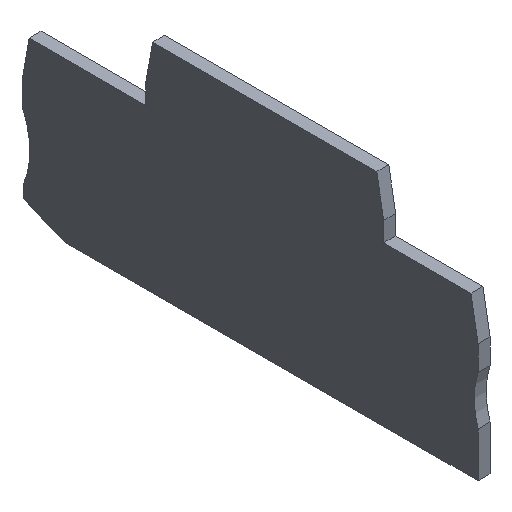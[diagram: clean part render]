
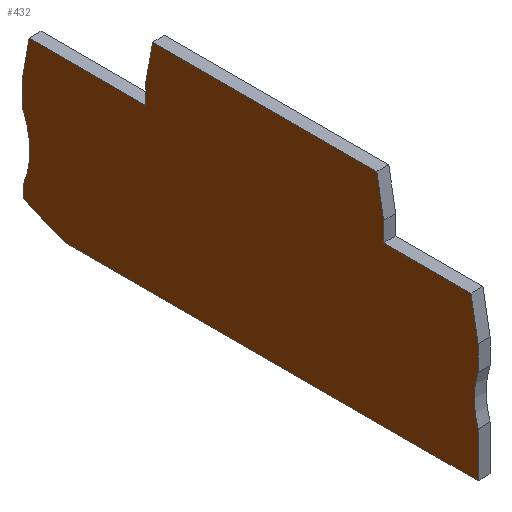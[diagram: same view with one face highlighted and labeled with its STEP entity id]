
A CAD part, isometric view. The second image highlights one B-rep face of the part: STEP entity #432.
In plain terms, the highlighted planar face has unit normal (-1, 0, 0).
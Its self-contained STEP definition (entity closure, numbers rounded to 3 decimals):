
#42=CARTESIAN_POINT('',(0.,59.804,39.898));
#43=VERTEX_POINT('',#42);
#50=CARTESIAN_POINT('',(0.,18.611,39.898));
#51=VERTEX_POINT('',#50);
#52=CARTESIAN_POINT('',(0.,59.804,39.898));
#53=DIRECTION('',(-0.,-1.,-0.));
#54=VECTOR('',#53,41.193);
#55=LINE('',#52,#54);
#56=EDGE_CURVE('',#43,#51,#55,.T.);
#279=CARTESIAN_POINT('',(0.,17.352,32.759));
#280=VERTEX_POINT('',#279);
#281=CARTESIAN_POINT('',(0.,17.352,29.198));
#282=VERTEX_POINT('',#281);
#283=CARTESIAN_POINT('',(0.,17.352,32.759));
#284=DIRECTION('',(-0.,-0.,-1.));
#285=VECTOR('',#284,3.561);
#286=LINE('',#283,#285);
#287=EDGE_CURVE('',#280,#282,#286,.T.);
#305=CARTESIAN_POINT('',(0.,16.153,4.638));
#306=DIRECTION('',(1.,0.,0.));
#307=DIRECTION('',(0.,1.,0.));
#308=AXIS2_PLACEMENT_3D('',#305,#306,#307);
#309=PLANE('',#308);
#310=CARTESIAN_POINT('',(0.,0.002,17.248));
#311=VERTEX_POINT('',#310);
#312=CARTESIAN_POINT('',(0.,0.002,8.248));
#313=VERTEX_POINT('',#312);
#314=CARTESIAN_POINT('',(0.,-14.307,12.748));
#315=DIRECTION('',(-1.,0.,0.));
#316=DIRECTION('',(0.,-1.,0.));
#317=AXIS2_PLACEMENT_3D('',#314,#315,#316);
#318=CIRCLE('',#317,15.);
#319=EDGE_CURVE('',#311,#313,#318,.T.);
#320=ORIENTED_EDGE('',*,*,#319,.F.);
#321=CARTESIAN_POINT('',(0.,0.002,21.823));
#322=VERTEX_POINT('',#321);
#323=CARTESIAN_POINT('',(0.,0.002,21.823));
#324=DIRECTION('',(0.,0.,-1.));
#325=VECTOR('',#324,4.575);
#326=LINE('',#323,#325);
#327=EDGE_CURVE('',#322,#311,#326,.T.);
#328=ORIENTED_EDGE('',*,*,#327,.F.);
#329=CARTESIAN_POINT('',(0.,1.303,29.198));
#330=VERTEX_POINT('',#329);
#331=CARTESIAN_POINT('',(0.,1.303,29.198));
#332=DIRECTION('',(0.,-0.174,-0.985));
#333=VECTOR('',#332,7.489);
#334=LINE('',#331,#333);
#335=EDGE_CURVE('',#330,#322,#334,.T.);
#336=ORIENTED_EDGE('',*,*,#335,.F.);
#337=CARTESIAN_POINT('',(0.,17.352,29.198));
#338=DIRECTION('',(0.,-1.,-0.));
#339=VECTOR('',#338,16.05);
#340=LINE('',#337,#339);
#341=EDGE_CURVE('',#282,#330,#340,.T.);
#342=ORIENTED_EDGE('',*,*,#341,.F.);
#343=ORIENTED_EDGE('',*,*,#287,.F.);
#344=CARTESIAN_POINT('',(0.,18.611,39.898));
#345=DIRECTION('',(-0.,-0.174,-0.985));
#346=VECTOR('',#345,7.249);
#347=LINE('',#344,#346);
#348=EDGE_CURVE('',#51,#280,#347,.T.);
#349=ORIENTED_EDGE('',*,*,#348,.F.);
#350=ORIENTED_EDGE('',*,*,#56,.F.);
#351=CARTESIAN_POINT('',(0.,61.052,32.818));
#352=VERTEX_POINT('',#351);
#353=CARTESIAN_POINT('',(0.,61.052,32.818));
#354=DIRECTION('',(-0.,-0.174,0.985));
#355=VECTOR('',#354,7.19);
#356=LINE('',#353,#355);
#357=EDGE_CURVE('',#352,#43,#356,.T.);
#358=ORIENTED_EDGE('',*,*,#357,.F.);
#359=CARTESIAN_POINT('',(0.,61.052,29.198));
#360=VERTEX_POINT('',#359);
#361=CARTESIAN_POINT('',(0.,61.052,29.198));
#362=DIRECTION('',(0.,0.,1.));
#363=VECTOR('',#362,3.62);
#364=LINE('',#361,#363);
#365=EDGE_CURVE('',#360,#352,#364,.T.);
#366=ORIENTED_EDGE('',*,*,#365,.F.);
#367=CARTESIAN_POINT('',(0.,82.501,29.198));
#368=VERTEX_POINT('',#367);
#369=CARTESIAN_POINT('',(0.,82.501,29.198));
#370=DIRECTION('',(0.,-1.,-0.));
#371=VECTOR('',#370,21.449);
#372=LINE('',#369,#371);
#373=EDGE_CURVE('',#368,#360,#372,.T.);
#374=ORIENTED_EDGE('',*,*,#373,.F.);
#375=CARTESIAN_POINT('',(0.,83.798,21.846));
#376=VERTEX_POINT('',#375);
#377=CARTESIAN_POINT('',(0.,83.798,21.846));
#378=DIRECTION('',(-0.,-0.174,0.985));
#379=VECTOR('',#378,7.465);
#380=LINE('',#377,#379);
#381=EDGE_CURVE('',#376,#368,#380,.T.);
#382=ORIENTED_EDGE('',*,*,#381,.F.);
#383=CARTESIAN_POINT('',(0.,83.798,17.677));
#384=VERTEX_POINT('',#383);
#385=CARTESIAN_POINT('',(0.,83.798,17.677));
#386=DIRECTION('',(-0.,-0.,1.));
#387=VECTOR('',#386,4.17);
#388=LINE('',#385,#387);
#389=EDGE_CURVE('',#384,#376,#388,.T.);
#390=ORIENTED_EDGE('',*,*,#389,.F.);
#391=CARTESIAN_POINT('',(0.,83.602,5.248));
#392=VERTEX_POINT('',#391);
#393=CARTESIAN_POINT('',(0.,97.35,11.248));
#394=DIRECTION('',(1.,0.,0.));
#395=DIRECTION('',(-0.,1.,0.));
#396=AXIS2_PLACEMENT_3D('',#393,#394,#395);
#397=CIRCLE('',#396,15.);
#398=EDGE_CURVE('',#384,#392,#397,.T.);
#399=ORIENTED_EDGE('',*,*,#398,.T.);
#400=CARTESIAN_POINT('',(0.,83.602,3.074));
#401=VERTEX_POINT('',#400);
#402=CARTESIAN_POINT('',(0.,83.602,3.074));
#403=DIRECTION('',(-0.,-0.,1.));
#404=VECTOR('',#403,2.174);
#405=LINE('',#402,#404);
#406=EDGE_CURVE('',#401,#392,#405,.T.);
#407=ORIENTED_EDGE('',*,*,#406,.F.);
#408=CARTESIAN_POINT('',(0.,75.603,-0.002));
#409=VERTEX_POINT('',#408);
#410=CARTESIAN_POINT('',(0.,75.603,-0.002));
#411=DIRECTION('',(0.,0.933,0.359));
#412=VECTOR('',#411,8.571);
#413=LINE('',#410,#412);
#414=EDGE_CURVE('',#409,#401,#413,.T.);
#415=ORIENTED_EDGE('',*,*,#414,.F.);
#416=CARTESIAN_POINT('',(0.,0.002,-0.002));
#417=VERTEX_POINT('',#416);
#418=CARTESIAN_POINT('',(0.,0.002,-0.002));
#419=DIRECTION('',(0.,1.,0.));
#420=VECTOR('',#419,75.6);
#421=LINE('',#418,#420);
#422=EDGE_CURVE('',#417,#409,#421,.T.);
#423=ORIENTED_EDGE('',*,*,#422,.F.);
#424=CARTESIAN_POINT('',(0.,0.002,8.248));
#425=DIRECTION('',(0.,0.,-1.));
#426=VECTOR('',#425,8.25);
#427=LINE('',#424,#426);
#428=EDGE_CURVE('',#313,#417,#427,.T.);
#429=ORIENTED_EDGE('',*,*,#428,.F.);
#430=EDGE_LOOP('',(#320,#328,#336,#342,#343,#349,#350,#358,#366,#374,#382,#390,#399,#407,#415,#423,#429));
#431=FACE_BOUND('',#430,.T.);
#432=ADVANCED_FACE('',(#431),#309,.F.);
